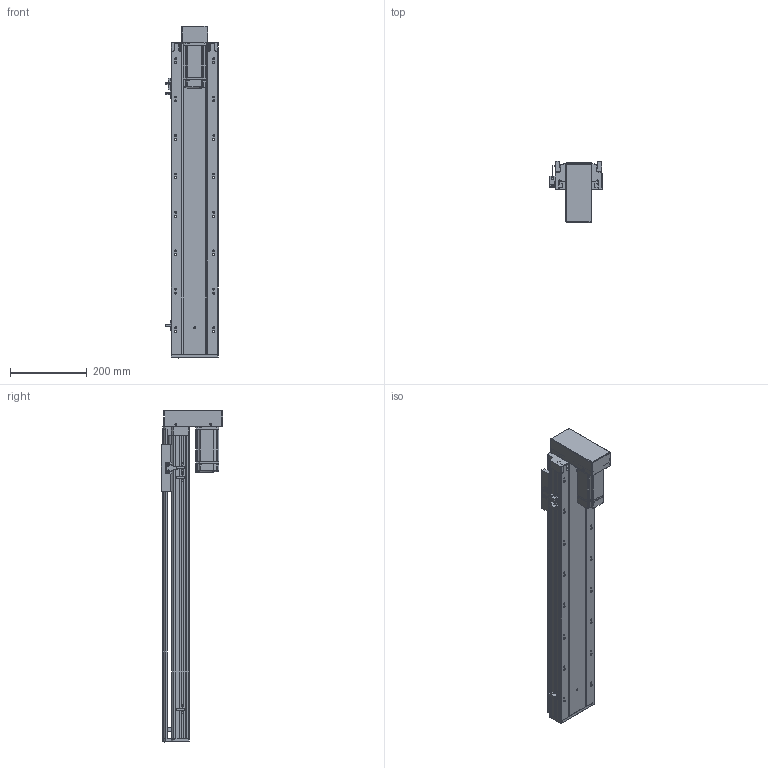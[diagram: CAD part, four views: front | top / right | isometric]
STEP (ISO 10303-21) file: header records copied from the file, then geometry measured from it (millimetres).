
FILE_DESCRIPTION (( 'STEP AP203' ), '1' );
FILE_NAME ('RY120-L2020-300-BK.SLDASM_600.step', '2021-03-12T06:57:45', ( '盈信电脑' ), ( '东莞市道滘镇水果街19号' ), 'SwSTEP 2.0', 'SolidWorks 2012', '' );
FILE_SCHEMA (( 'CONFIG_CONTROL_DESIGN' ));
Products named in the file (15): RY120-400W萇儂傷-BK; RY120下折折电机安装板; RY120-L2020-300-BK.SLDASM_600; RY120狟殏萇儂欶; 15; RY120转拆电端丝杆支撑座(20丝杆，7002轴承); RY120外置感应片(140共用）; 侂狟400W侜督萇儂; 覜茼ん672; 滅袉蝶18-10; RY120綴裔啣; 滅袉蝶18-24; RY120臏賑輸(20蹟譫); RY120-300-BK蛌殏倰第菁釱_600; RY120-300-BK蛌殏倰第奻裔啣_600
Assembly tree (17 placements, depth 4):
  RY120-L2020-300-BK.SLDASM_600
    RY120-300-BK蛌殏倰第菁釱_600
    RY120-300-BK蛌殏倰第奻裔啣_600
    RY120臏賑輸(20蹟譫)
    RY120綴裔啣
    覜茼ん672  x3
    滅袉蝶18-10
    滅袉蝶18-24  x2
    RY120外置感应片(140共用）
    RY120转拆电端丝杆支撑座(20丝杆，7002轴承)
    RY120-400W萇儂傷-BK
      侂狟400W侜督萇儂
        15
      RY120狟殏萇儂欶
      RY120下折折电机安装板
Bounding box: 135.7 x 159.5 x 864 mm (x, y, z)
Volume: 2628825.8 mm3; surface area: 950540.8 mm2
Topology: 16 solids, 16 shells, 2458 faces, 6767 edges, 4340 vertices
Faces by surface type: plane 1226, cylinder 918, cone 209, bspline 105
Entity records: 81873 total; most frequent: CARTESIAN_POINT 23243, ORIENTED_EDGE 12254, DIRECTION 11263, EDGE_CURVE 6127, VERTEX_POINT 4008, LINE 3781, VECTOR 3781, AXIS2_PLACEMENT_3D 3741
